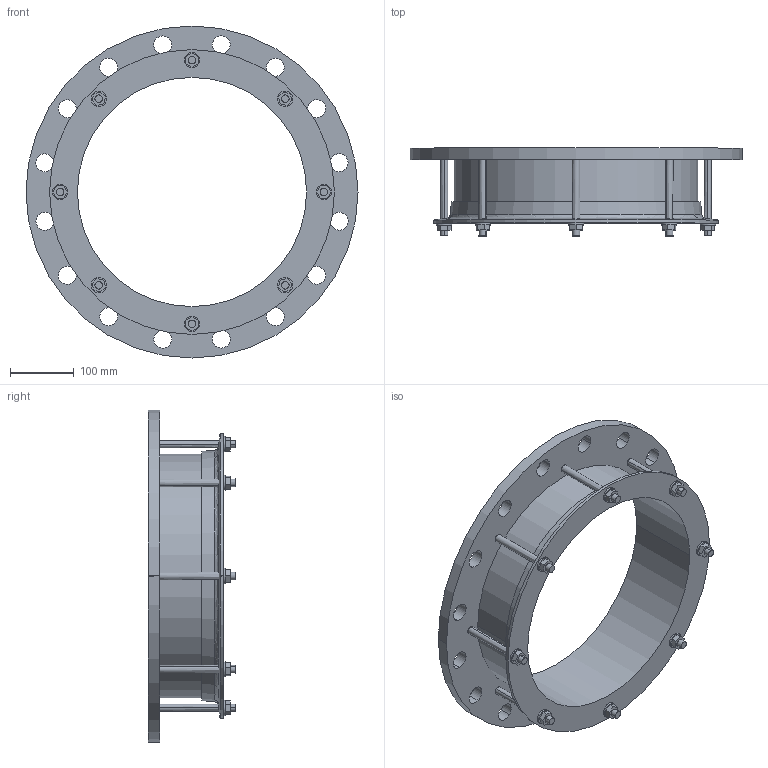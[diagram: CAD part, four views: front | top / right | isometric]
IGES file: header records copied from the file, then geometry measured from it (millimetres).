
Start section:  PTC IGES file: 355x350pn16.igs
Global section: file name: 355x350pn16.igs; native system: Creo Parametric by PTC Inc.; preprocessor: 2016130; author: mfairey; organization: Unknown; date: 20190116.084931; units: millimetre
Bounding box: 520 x 137.45 x 520 mm (x, y, z)
Surface area: 622502.7 mm2 (no closed solid volume)
Topology: 0 solids, 0 shells, 170 faces, 892 edges, 892 vertices
Faces by surface type: revolution 94, bspline 76
